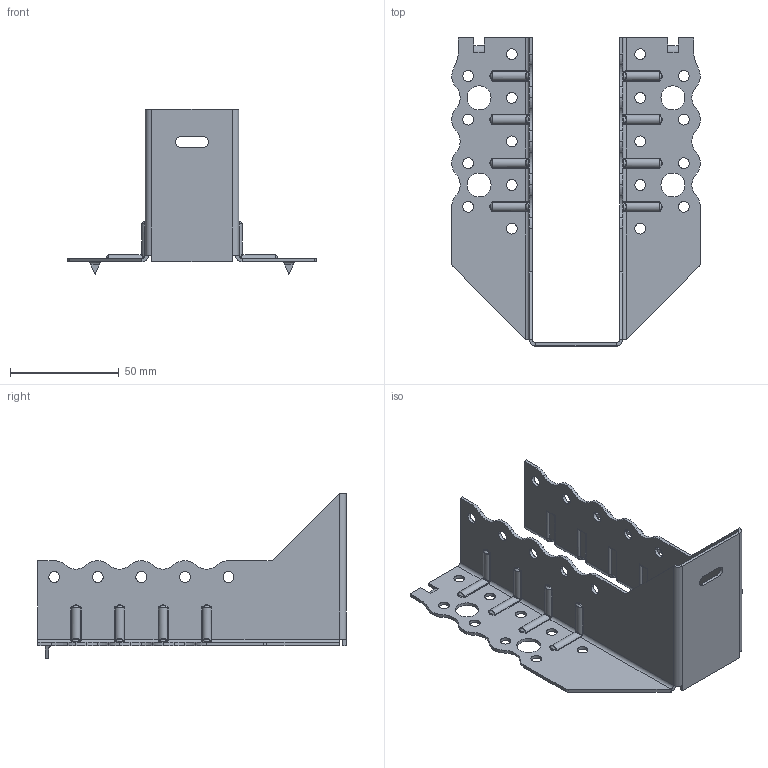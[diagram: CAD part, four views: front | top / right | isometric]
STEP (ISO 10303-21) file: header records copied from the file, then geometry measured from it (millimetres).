
FILE_DESCRIPTION (( 'STEP AP203' ), '1' );
FILE_NAME ('30605TOP.STEP', '2021-04-06T16:23:43', ( '' ), ( '' ), 'SwSTEP 2.0', 'SolidWorks 2013', '' );
FILE_SCHEMA (( 'CONFIG_CONTROL_DESIGN' ));
Length unit declared in the file: millimetre
Products named in the file (1): 30605TOP
Bounding box: 114 x 141.5 x 76 mm (x, y, z)
Volume: 32539.6 mm3; surface area: 46221.2 mm2
Topology: 1 solids, 1 shells, 511 faces, 1275 edges, 766 vertices
Faces by surface type: cylinder 253, bspline 120, plane 106, torus 16, sphere 16
Entity records: 22956 total; most frequent: CARTESIAN_POINT 11305, ORIENTED_EDGE 2550, DIRECTION 2281, EDGE_CURVE 1275, AXIS2_PLACEMENT_3D 870, VERTEX_POINT 766, EDGE_LOOP 577, VECTOR 541
